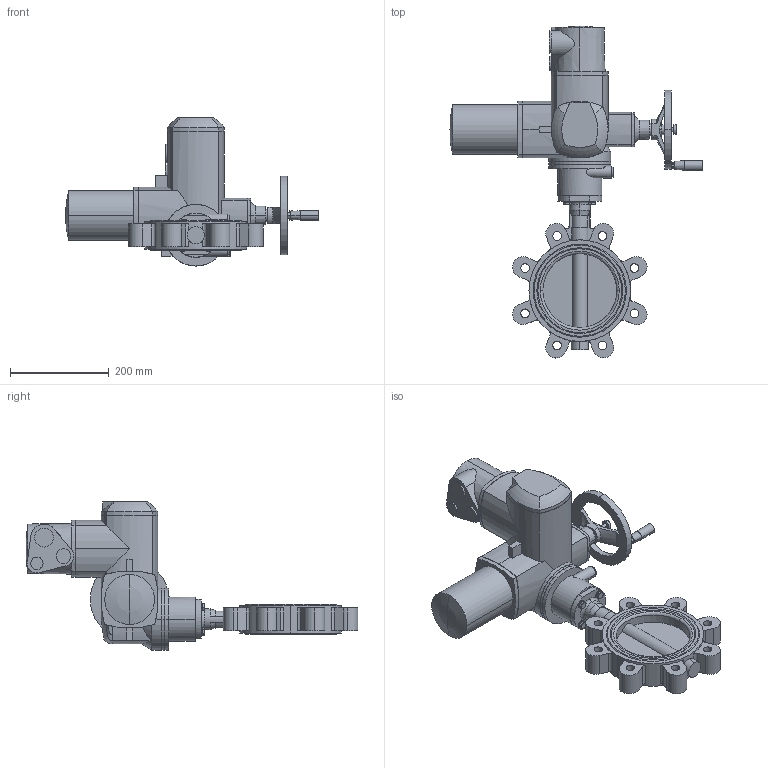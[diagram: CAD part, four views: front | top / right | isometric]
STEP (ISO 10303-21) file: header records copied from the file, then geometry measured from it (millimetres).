
FILE_DESCRIPTION (( 'STEP AP214' ), '1' );
FILE_NAME ('67549.step', '2020-10-23T13:46:42', ( '' ), ( '' ), 'SwSTEP 2.0', 'SolidWorks 2019', '' );
FILE_SCHEMA (( 'AUTOMOTIVE_DESIGN' ));
Length unit declared in the file: millimetre
Products named in the file (7): TL20-0150_M01; SQ(R) 05.2_SQ 05.2 Drehstrommotor; U-Scheibe DIN 125 A_M8; Gewindestift mit Kegelkuppe und In-6kt DIN 913 A4_Gewindestift mit In-6kt M5x10; 54377_SQ05.2 F05_F07-VK14; 67549; 6kt-Schr DIN 933_M8x25
Assembly tree (12 placements, depth 2):
  67549
    TL20-0150_M01
    U-Scheibe DIN 125 A_M8  x4
    6kt-Schr DIN 933_M8x25  x4
    SQ(R) 05.2_SQ 05.2 Drehstrommotor
    54377_SQ05.2 F05_F07-VK14
    Gewindestift mit Kegelkuppe und In-6kt DIN 913 A4_Gewindestift mit In-6kt M5x10
Bounding box: 512.7 x 672.98 x 300.3 mm (x, y, z)
Volume: 9746044.8 mm3; surface area: 605317.4 mm2
Topology: 12 solids, 12 shells, 752 faces, 1892 edges, 1203 vertices
Faces by surface type: plane 369, cylinder 245, cone 117, bspline 11, torus 6, sphere 4
Entity records: 28416 total; most frequent: CARTESIAN_POINT 7984, DIRECTION 3433, ORIENTED_EDGE 3362, EDGE_CURVE 1681, AXIS2_PLACEMENT_3D 1273, VERTEX_POINT 1081, VECTOR 887, LINE 887
